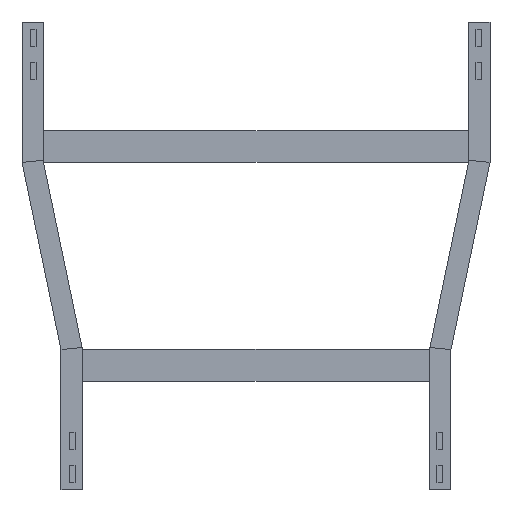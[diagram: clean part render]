
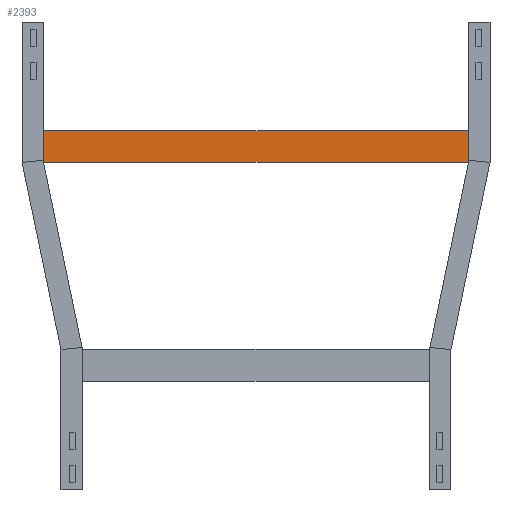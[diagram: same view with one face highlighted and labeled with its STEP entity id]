
A CAD part, front view. The second image highlights one B-rep face of the part: STEP entity #2393.
In plain terms, the highlighted planar face has unit normal (0, -1, 0).
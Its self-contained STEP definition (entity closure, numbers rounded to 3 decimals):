
#194 = CARTESIAN_POINT ( 'NONE',  ( -298., 0., 20.25 ) ) ;
#312 = ORIENTED_EDGE ( 'NONE', *, *, #775, .T. ) ;
#368 = CARTESIAN_POINT ( 'NONE',  ( -298., 0., 20.25 ) ) ;
#410 = DIRECTION ( 'NONE',  ( 0., 0., -1. ) ) ;
#530 = DIRECTION ( 'NONE',  ( 0., 0., 1. ) ) ;
#678 = DIRECTION ( 'NONE',  ( -1., 0., 0. ) ) ;
#695 = EDGE_CURVE ( 'NONE', #3809, #2165, #3501, .T. ) ;
#703 = ORIENTED_EDGE ( 'NONE', *, *, #3114, .F. ) ;
#760 = VERTEX_POINT ( 'NONE', #2489 ) ;
#775 = EDGE_CURVE ( 'NONE', #760, #3809, #3442, .T. ) ;
#974 = CARTESIAN_POINT ( 'NONE',  ( 298., 0., 20.25 ) ) ;
#1408 = PLANE ( 'NONE',  #1872 ) ;
#1419 = LINE ( 'NONE', #2639, #2461 ) ;
#1421 = CARTESIAN_POINT ( 'NONE',  ( 298., 0., 20.25 ) ) ;
#1734 = VERTEX_POINT ( 'NONE', #2422 ) ;
#1749 = CARTESIAN_POINT ( 'NONE',  ( 298., 0., 20.25 ) ) ;
#1867 = ORIENTED_EDGE ( 'NONE', *, *, #695, .T. ) ;
#1872 = AXIS2_PLACEMENT_3D ( 'NONE', #1749, #3245, #530 ) ;
#1925 = VECTOR ( 'NONE', #410, 1000. ) ;
#2165 = VERTEX_POINT ( 'NONE', #3651 ) ;
#2393 = ADVANCED_FACE ( 'NONE', ( #3263 ), #1408, .F. ) ;
#2422 = CARTESIAN_POINT ( 'NONE',  ( 298., 0., -20.25 ) ) ;
#2461 = VECTOR ( 'NONE', #3884, 1000. ) ;
#2489 = CARTESIAN_POINT ( 'NONE',  ( 298., 0., 20.25 ) ) ;
#2632 = VECTOR ( 'NONE', #678, 1000. ) ;
#2639 = CARTESIAN_POINT ( 'NONE',  ( 298., 0., -20.25 ) ) ;
#2658 = VECTOR ( 'NONE', #2705, 1000. ) ;
#2683 = LINE ( 'NONE', #1421, #2658 ) ;
#2705 = DIRECTION ( 'NONE',  ( 0., 0., -1. ) ) ;
#3114 = EDGE_CURVE ( 'NONE', #760, #1734, #2683, .T. ) ;
#3245 = DIRECTION ( 'NONE',  ( 0., 1., 0. ) ) ;
#3263 = FACE_OUTER_BOUND ( 'NONE', #3873, .T. ) ;
#3442 = LINE ( 'NONE', #974, #2632 ) ;
#3501 = LINE ( 'NONE', #368, #1925 ) ;
#3651 = CARTESIAN_POINT ( 'NONE',  ( -298., 0., -20.25 ) ) ;
#3764 = ORIENTED_EDGE ( 'NONE', *, *, #3810, .F. ) ;
#3809 = VERTEX_POINT ( 'NONE', #194 ) ;
#3810 = EDGE_CURVE ( 'NONE', #1734, #2165, #1419, .T. ) ;
#3873 = EDGE_LOOP ( 'NONE', ( #1867, #3764, #703, #312 ) ) ;
#3884 = DIRECTION ( 'NONE',  ( -1., 0., 0. ) ) ;
